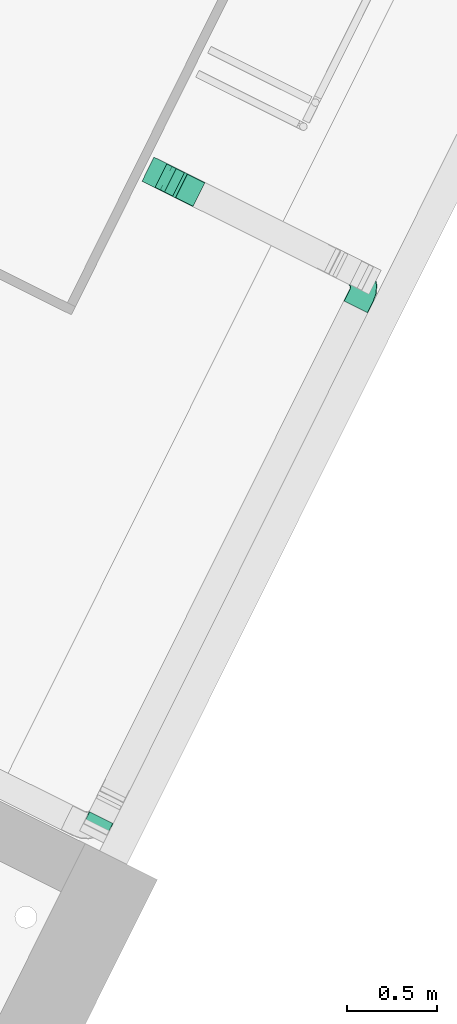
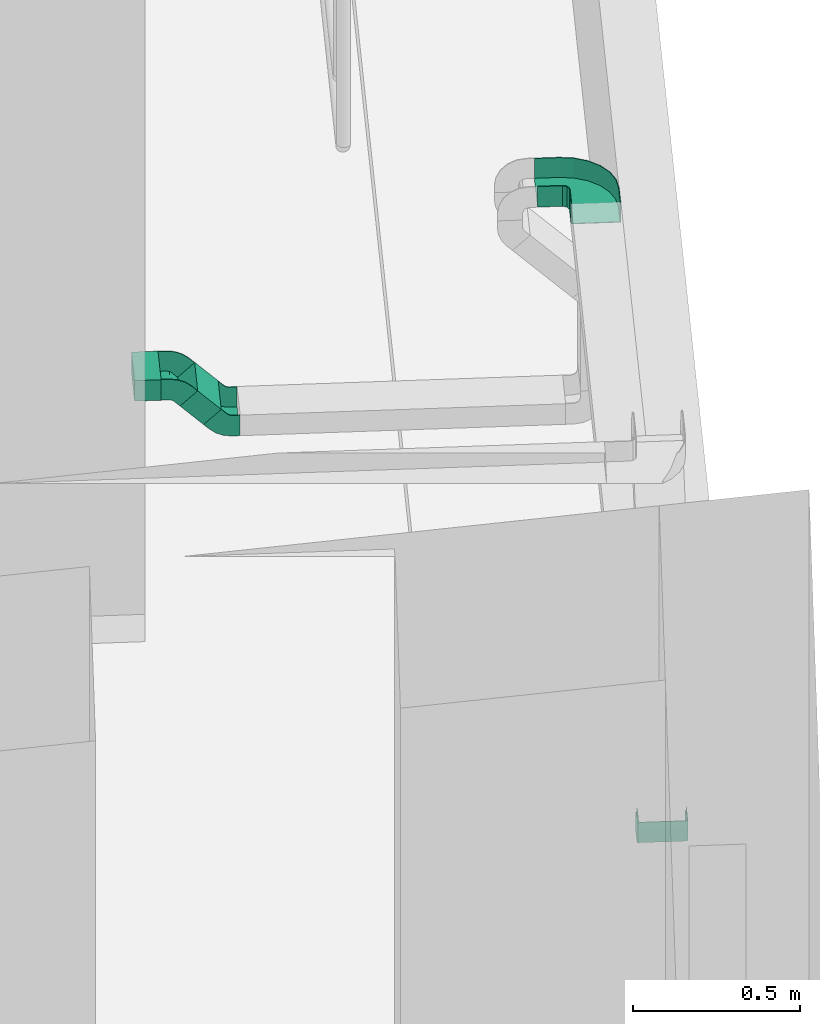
# One storey, part 21 of 34: 4 flow fittings, 2 flow segments.
"""IFC2X3 building model written with IfcOpenShell, lengths in metres."""

from ifc_helpers import new_model, entity, si_unit, converted_unit, derived_unit, direction, frame, frame_2d, origin, place, context, subcontext, project, spatial, rectangle, extrude, faceted_brep, source, transform, mapped, type_object, type_shapes, element, save


model = new_model("IFC2X3")

# Units and contexts
model_context = context("Model", 3, precision=1e-05, world=origin(), true_north=direction((0.894925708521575, 0.446215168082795)))
context_of_model = context(None, 3, precision=1e-05, world=origin(), true_north=direction((0.894925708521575, 0.446215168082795)))
body_context = subcontext(model_context, "Body", "Model", "MODEL_VIEW")
ifc_project = project(units=[si_unit("LENGTHUNIT", "METRE"), si_unit("AREAUNIT", "SQUARE_METRE"), si_unit("VOLUMEUNIT", "CUBIC_METRE"), converted_unit("PLANEANGLEUNIT", "DEGREE", entity("IfcRatioMeasure", 0.0174532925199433), si_unit("PLANEANGLEUNIT", "RADIAN"), dimensions=[0, 0, 0, 0, 0, 0, 0]), si_unit("MASSUNIT", "GRAM", prefix="KILO"), si_unit("TIMEUNIT", "SECOND"), si_unit("FREQUENCYUNIT", "HERTZ"), si_unit("THERMODYNAMICTEMPERATUREUNIT", "DEGREE_CELSIUS"), derived_unit("THERMALTRANSMITTANCEUNIT", [(si_unit("MASSUNIT", "GRAM", prefix="KILO"), 1), (si_unit("THERMODYNAMICTEMPERATUREUNIT", "KELVIN"), -1), (si_unit("TIMEUNIT", "SECOND"), -3)]), derived_unit("VOLUMETRICFLOWRATEUNIT", [(si_unit("LENGTHUNIT", "METRE"), 3), (si_unit("TIMEUNIT", "SECOND"), -1)]), si_unit("ELECTRICCURRENTUNIT", "AMPERE"), si_unit("ELECTRICVOLTAGEUNIT", "VOLT"), si_unit("POWERUNIT", "WATT"), si_unit("FORCEUNIT", "NEWTON", prefix="KILO"), si_unit("ILLUMINANCEUNIT", "LUX"), si_unit("LUMINOUSFLUXUNIT", "LUMEN"), si_unit("LUMINOUSINTENSITYUNIT", "CANDELA"), si_unit("PRESSUREUNIT", "PASCAL")], contexts=[model_context, context_of_model])

# Site, building, storey
site_placement = place(None, frame((218.228324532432, 584.720189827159, 0.0), z_axis=(0.0, 0.0, 1.0), x_axis=(0.446215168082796, 0.894925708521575, 0.0)))
site = spatial("IfcSite", under=ifc_project, at=site_placement, Name="Default", CompositionType="ELEMENT")
building_placement = place(site_placement, origin())
building = spatial("IfcBuilding", under=site, at=building_placement, CompositionType="ELEMENT")
storey_placement = place(building_placement, frame((0.0, 0.0, 8.61)))
storey = spatial("IfcBuildingStorey", under=building, at=storey_placement, Name="2 - Piano Secondo", CompositionType="ELEMENT", Elevation=8.61)

# Flow segments
cable_carrier_segment_type = type_object("IfcCableCarrierSegmentType", Name="Passerella con raccordi:Passerella canale", PredefinedType="NOTDEFINED")
flow_segment_1_placement = place(storey_placement, frame((-1.13742741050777, -12.0074350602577, 0.195502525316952)))
element("IfcFlowSegment", 1, at=flow_segment_1_placement, inside=storey, type_object=cable_carrier_segment_type, Name="Passerella con raccordi:Passerella canale", ObjectType="Passerella con raccordi:Passerella canale", context=body_context, shape_type="SweptSolid", body=[
    extrude(rectangle(XDim=0.100000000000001, YDim=0.0750000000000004, at=frame_2d((-3.78169717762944e-16, -3.81639164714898e-16), x_axis=(1.0, 0.0))), frame((0.0, 0.061871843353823, 0.061871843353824), z_axis=(1.0, 0.0, 0.0), x_axis=(0.0, 0.707106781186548, 0.707106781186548)), (0.0, 0.0, 1.0), 0.15),
])
flow_segment_2_placement = place(storey_placement, frame((-1.13742741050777, -11.8268715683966, 0.289748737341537)))
element("IfcFlowSegment", 2, at=flow_segment_2_placement, inside=storey, type_object=cable_carrier_segment_type, Name="Passerella con raccordi:Passerella canale", ObjectType="Passerella con raccordi:Passerella canale", context=body_context, shape_type="SweptSolid", body=[
    extrude(rectangle(XDim=0.0799999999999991, YDim=0.15, at=frame_2d((-1.08246744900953e-15, -1.31838984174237e-16), x_axis=(1.0, 0.0))), frame((0.0750000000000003, 0.0399999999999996, 0.0), z_axis=(0.0, 0.0, 1.0), x_axis=(0.0, 1.0, 0.0)), (0.0, 0.0, 1.0), 0.0750000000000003),
])

# Flow fittings
cable_carrier_fitting_type_1 = type_object("IfcCableCarrierFittingType", Name="Standard", PredefinedType="NOTDEFINED")
shared_shape_1 = source(origin(), body_context, "Body", "Brep", [
    faceted_brep([(-0.0488172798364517, -0.0374999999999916, -0.0750000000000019), (-0.0488172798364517, -0.0374999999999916, 0.0749999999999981), (-0.0488172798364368, 0.0375000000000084, 0.0749999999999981), (-0.0488172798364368, 0.0375000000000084, 0.0724600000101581), (-0.0488172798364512, -0.0349600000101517, 0.0724600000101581), (-0.0488172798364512, -0.0349600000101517, -0.0724600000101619), (-0.0488172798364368, 0.0375000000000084, -0.0724600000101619), (-0.0488172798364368, 0.0375000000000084, -0.0750000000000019), (0.0610355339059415, -0.00800252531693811, -0.0750000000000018), (0.0610355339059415, -0.00800252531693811, -0.0724600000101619), (0.00979857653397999, -0.0592394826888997, -0.0724600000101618), (0.00979857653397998, -0.0592394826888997, 0.0724600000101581), (0.0610355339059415, -0.00800252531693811, 0.0724600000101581), (0.0610355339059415, -0.00800252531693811, 0.0749999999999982), (0.00800252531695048, -0.0610355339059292, 0.0749999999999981), (0.00800252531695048, -0.0610355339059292, -0.0750000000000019), (-0.0238172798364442, -0.0374999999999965, 0.0749999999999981), (-0.0199904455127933, -0.0382612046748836, 0.0749999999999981), (-0.0161636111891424, -0.0390224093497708, 0.0749999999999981), (-0.0141517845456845, -0.0403666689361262, 0.0749999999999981), (-0.0096751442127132, -0.0433578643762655, 0.0749999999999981), (0.0433578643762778, 0.00967514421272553, 0.0749999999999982), (0.0335202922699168, 0.0172237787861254, 0.0749999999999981), (0.0236827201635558, 0.0247724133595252, 0.0749999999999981), (0.0122266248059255, 0.0295176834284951, 0.0749999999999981), (0.000770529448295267, 0.034262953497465, 0.0749999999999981), (-0.0133030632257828, 0.036115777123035, 0.0749999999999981), (-0.0238172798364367, 0.0375000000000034, 0.0749999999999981), (-0.0238172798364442, -0.0374999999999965, -0.0750000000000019), (-0.0238172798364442, -0.0374999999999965, -0.0030768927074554), (-0.0238172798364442, 0.0375000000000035, -0.0750000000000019), (-0.0133030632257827, 0.036115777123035, -0.0750000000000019), (0.000770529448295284, 0.034262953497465, -0.0750000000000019), (0.0122266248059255, 0.0295176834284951, -0.0750000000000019), (0.0236827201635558, 0.0247724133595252, -0.0750000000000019), (0.0335202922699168, 0.0172237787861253, -0.0750000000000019), (0.0433578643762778, 0.00967514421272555, -0.0750000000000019), (-0.00967514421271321, -0.0433578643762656, -0.0750000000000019), (-0.0129193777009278, -0.0411901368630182, -0.0750000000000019), (-0.0161636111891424, -0.0390224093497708, -0.0750000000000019), (-0.0185367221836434, -0.0385503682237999, -0.0750000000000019), (-0.0238172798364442, 0.0375000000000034, -0.0724600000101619), (-0.0238172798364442, 0.0375000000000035, 0.0724600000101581), (-0.0238172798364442, -0.0349600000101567, -0.0724600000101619), (-0.0182114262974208, -0.0360750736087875, -0.0724600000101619), (-0.0151915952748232, -0.0366757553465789, -0.0724600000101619), (-0.0115353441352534, -0.0391187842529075, -0.0724600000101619), (-0.00787909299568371, -0.041561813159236, -0.0724600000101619), (0.0433578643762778, 0.00967514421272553, -0.0724600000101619), (0.0349443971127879, 0.0161310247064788, -0.0724600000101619), (0.0236827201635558, 0.0247724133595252, -0.0724600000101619), (0.0122266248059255, 0.0295176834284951, -0.0724600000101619), (0.000770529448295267, 0.034262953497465, -0.0724600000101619), (-0.0115233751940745, 0.0358814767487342, -0.0724600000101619), (-0.0238172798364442, -0.0349600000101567, 0.0724600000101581), (-0.0238172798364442, -0.0349600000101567, -0.0104266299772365), (-0.0115233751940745, 0.0358814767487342, 0.0724600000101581), (0.000770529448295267, 0.034262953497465, 0.0724600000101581), (0.0122266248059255, 0.0295176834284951, 0.0724600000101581), (0.0236827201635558, 0.0247724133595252, 0.0724600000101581), (0.0335202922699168, 0.0172237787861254, 0.0724600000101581), (0.0433578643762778, 0.00967514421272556, 0.0724600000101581), (-0.00787909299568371, -0.0415618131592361, 0.0724600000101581), (-0.012631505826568, -0.0383863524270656, 0.0724600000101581), (-0.0151915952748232, -0.0366757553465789, 0.0724600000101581), (-0.0195044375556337, -0.0358178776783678, 0.0724600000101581), (-0.0173020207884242, -0.0385909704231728, 0.0), (-0.00967514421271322, -0.0433578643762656, 0.00307688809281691), (-0.0132021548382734, -0.0405495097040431, -0.00928633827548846), (-0.0166423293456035, -0.0361324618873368, 0.0), (-0.00787909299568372, -0.041561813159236, 0.0104266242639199), (-0.0120504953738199, -0.0382751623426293, -0.000444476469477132)], [[[0, 1, 2, 3, 4, 5, 6, 7]], [[8, 9, 10, 11, 12, 13, 14, 15]], [[1, 16, 17, 18, 19, 20, 14, 13, 21, 22, 23, 24, 25, 26, 27, 2]], [[16, 1, 0, 28, 29]], [[7, 30, 31, 32, 33, 34, 35, 36, 8, 15, 37, 38, 39, 40, 28, 0]], [[41, 30, 7, 6]], [[27, 42, 3, 2]], [[5, 43, 44, 45, 46, 47, 10, 9, 48, 49, 50, 51, 52, 53, 41, 6]], [[43, 5, 4, 54, 55]], [[3, 42, 56, 57, 58, 59, 60, 61, 12, 11, 62, 63, 64, 65, 54, 4]], [[66, 17, 29]], [[37, 67, 68]], [[39, 66, 40]], [[29, 28, 40]], [[16, 29, 17]], [[66, 18, 17]], [[18, 66, 19]], [[37, 68, 39, 38]], [[40, 66, 29]], [[19, 66, 68]], [[67, 20, 19]], [[19, 68, 67]], [[39, 68, 66]], [[52, 32, 31, 30, 41, 53]], [[57, 56, 42, 27, 26, 25]], [[51, 50, 34, 33, 32, 52]], [[59, 58, 57, 25, 24, 23]], [[36, 35, 34, 50, 49, 48]], [[61, 60, 59, 23, 22, 21]], [[69, 55, 65]], [[70, 47, 46]], [[63, 62, 70]], [[71, 46, 45]], [[69, 44, 55]], [[70, 71, 63]], [[71, 69, 64]], [[65, 64, 69]], [[44, 69, 45]], [[65, 55, 54]], [[44, 43, 55]], [[63, 71, 64]], [[69, 71, 45]], [[46, 71, 70]], [[14, 20, 67, 37, 15]], [[8, 36, 48, 9]], [[12, 61, 21, 13]], [[10, 47, 70, 62, 11]]]),
])
type_shapes(cable_carrier_fitting_type_1, [shared_shape_1])
flow_fitting_1_placement = place(storey_placement, frame((-1.06242741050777, -11.8756888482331, 0.327248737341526), z_axis=(1.0, 0.0, 0.0), x_axis=(0.0, 0.707106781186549, 0.707106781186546)))
element("IfcFlowFitting", 3, at=flow_fitting_1_placement, inside=storey, type_object=cable_carrier_fitting_type_1, Name="M_Curvatura esterna verticale canale:Standard", ObjectType="Standard", context=body_context, shape_type="MappedRepresentation", body=[
    mapped(shared_shape_1, transform((0.0, 0.0, 0.0), scale=1.0)),
])
cable_carrier_fitting_type_2 = type_object("IfcCableCarrierFittingType", Name="Standard", PredefinedType="NOTDEFINED")
shared_shape_2 = source(origin(), body_context, "Body", "Brep", [
    faceted_brep([(-0.0488172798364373, -0.0349600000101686, -0.0724600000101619), (-0.0488172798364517, 0.0374999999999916, -0.0724600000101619), (-0.0488172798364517, 0.0374999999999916, -0.0750000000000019), (-0.0488172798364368, -0.0375000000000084, -0.0750000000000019), (-0.0488172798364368, -0.0375000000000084, 0.0749999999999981), (-0.0488172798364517, 0.0374999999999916, 0.0749999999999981), (-0.0488172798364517, 0.0374999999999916, 0.0724600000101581), (-0.0488172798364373, -0.0349600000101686, 0.0724600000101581), (0.00800252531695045, 0.0610355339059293, -0.0750000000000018), (0.00800252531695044, 0.0610355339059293, -0.0724600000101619), (0.059239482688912, 0.00979857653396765, -0.0724600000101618), (0.059239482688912, 0.00979857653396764, 0.0724600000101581), (0.00800252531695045, 0.0610355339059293, 0.0724600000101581), (0.00800252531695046, 0.0610355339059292, 0.0749999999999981), (0.0610355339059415, 0.00800252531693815, 0.0749999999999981), (0.0610355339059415, 0.00800252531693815, -0.0750000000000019), (-0.0238172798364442, -0.0375000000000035, 0.0749999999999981), (0.000770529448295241, -0.034262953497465, 0.0749999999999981), (0.0236827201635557, -0.0247724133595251, 0.0749999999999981), (0.0433578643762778, -0.00967514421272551, 0.0749999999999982), (-0.00967514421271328, 0.0433578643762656, 0.0749999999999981), (-0.0129193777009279, 0.0411901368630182, 0.0749999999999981), (-0.0161636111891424, 0.0390224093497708, 0.0749999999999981), (-0.0199904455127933, 0.0382612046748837, 0.0749999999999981), (-0.0238172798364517, 0.0374999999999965, 0.0749999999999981), (-0.0238172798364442, -0.0375000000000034, -0.0750000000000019), (-0.0238172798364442, 0.0374999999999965, -0.0750000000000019), (-0.0190619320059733, 0.0384458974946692, -0.0750000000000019), (-0.0161636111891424, 0.0390224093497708, -0.0750000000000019), (-0.0129193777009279, 0.0411901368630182, -0.0750000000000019), (-0.00967514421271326, 0.0433578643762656, -0.0750000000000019), (0.0433578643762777, -0.00967514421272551, -0.0750000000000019), (0.0236827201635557, -0.0247724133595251, -0.0750000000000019), (0.000770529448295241, -0.034262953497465, -0.0750000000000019), (-0.0238172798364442, 0.0374999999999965, -0.0724600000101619), (-0.0238172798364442, 0.0374999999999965, 0.0724600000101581), (-0.0238172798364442, -0.0349600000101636, -0.0724600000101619), (0.000113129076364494, -0.0318095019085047, -0.0724600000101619), (0.0224127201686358, -0.0225727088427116, -0.0724600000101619), (0.0415618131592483, -0.007879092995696, -0.0724600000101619), (-0.00967514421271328, 0.0433578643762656, -0.0724600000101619), (-0.0129193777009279, 0.0411901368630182, -0.0724600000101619), (-0.0161636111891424, 0.0390224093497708, -0.0724600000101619), (-0.0199904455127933, 0.0382612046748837, -0.0724600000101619), (-0.0238172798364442, -0.0349600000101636, 0.0724600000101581), (-0.0199904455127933, 0.0382612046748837, 0.0724600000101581), (-0.0161636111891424, 0.0390224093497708, 0.0724600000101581), (-0.0137065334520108, 0.0406641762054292, 0.0724600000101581), (-0.00967514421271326, 0.0433578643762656, 0.0724600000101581), (0.0415618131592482, -0.007879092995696, 0.0724600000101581), (0.0224127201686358, -0.0225727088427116, 0.0724600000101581), (0.000113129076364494, -0.0318095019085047, 0.0724600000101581)], [[[0, 1, 2, 3, 4, 5, 6, 7]], [[8, 9, 10, 11, 12, 13, 14, 15]], [[4, 16, 17, 18, 19, 14, 13, 20, 21, 22, 23, 24, 5]], [[4, 3, 25, 16]], [[2, 26, 27, 28, 29, 30, 8, 15, 31, 32, 33, 25, 3]], [[2, 1, 34, 26]], [[6, 5, 24, 35]], [[0, 36, 37, 38, 39, 10, 9, 40, 41, 42, 43, 34, 1]], [[0, 7, 44, 36]], [[6, 35, 45, 46, 47, 48, 12, 11, 49, 50, 51, 44, 7]], [[25, 33, 17, 16]], [[33, 32, 18, 17]], [[32, 31, 19, 18]], [[28, 27, 26, 34, 43, 42]], [[24, 23, 22, 46, 45, 35]], [[29, 28, 42, 41, 40, 30]], [[21, 20, 48, 47, 46, 22]], [[44, 51, 37, 36]], [[51, 50, 38, 37]], [[50, 49, 39, 38]], [[19, 31, 15, 14]], [[30, 40, 9, 8]], [[48, 20, 13, 12]], [[39, 49, 11, 10]]]),
])
type_shapes(cable_carrier_fitting_type_2, [shared_shape_2])
flow_fitting_2_placement = place(storey_placement, frame((-1.06242741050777, -12.0154375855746, 0.187500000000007), z_axis=(1.0, 0.0, 0.0), x_axis=(0.0, 1.0, 0.0)))
element("IfcFlowFitting", 4, at=flow_fitting_2_placement, inside=storey, type_object=cable_carrier_fitting_type_2, Name="M_Curvatura interna verticale canale:Standard", ObjectType="Standard", context=body_context, shape_type="MappedRepresentation", body=[
    mapped(shared_shape_2, transform((0.0, 0.0, 0.0), scale=1.0)),
])
cable_carrier_fitting_type_3 = type_object("IfcCableCarrierFittingType", Name="Standard", PredefinedType="NOTDEFINED")
shared_shape_3 = source(origin(), body_context, "Body", "Brep", [
    faceted_brep([(-0.169999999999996, -0.0749999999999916, -0.0375000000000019), (-0.169999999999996, -0.0749999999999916, 0.0374999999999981), (-0.169999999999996, -0.0724600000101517, 0.0374999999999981), (-0.169999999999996, -0.0724600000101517, -0.0349600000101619), (-0.169999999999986, 0.0724600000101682, -0.0349600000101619), (-0.169999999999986, 0.0724600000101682, 0.0374999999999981), (-0.169999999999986, 0.0750000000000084, 0.0374999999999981), (-0.169999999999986, 0.0750000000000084, -0.0375000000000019), (0.0724600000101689, -0.169999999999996, -0.0349600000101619), (-0.0724600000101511, -0.169999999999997, -0.0349600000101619), (-0.0724600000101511, -0.169999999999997, 0.0374999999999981), (-0.0749999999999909, -0.169999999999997, 0.0374999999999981), (-0.0749999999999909, -0.169999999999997, -0.0375000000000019), (0.075000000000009, -0.169999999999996, -0.0375000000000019), (0.075000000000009, -0.169999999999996, 0.0374999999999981), (0.0724600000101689, -0.169999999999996, 0.0374999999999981), (-0.09499999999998, 0.0750000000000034, 0.0374999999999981), (-0.0949999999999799, 0.0750000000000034, -0.0375000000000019), (-0.0949999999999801, 0.0724600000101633, 0.0374999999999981), (-0.0516581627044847, 0.0667539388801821, 0.0374999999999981), (-0.011269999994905, 0.0500246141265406, 0.0374999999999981), (0.023412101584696, 0.023412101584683, 0.0374999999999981), (0.0500246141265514, -0.0112699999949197, 0.0374999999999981), (0.0667539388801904, -0.0516581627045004, 0.0374999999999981), (0.0724600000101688, -0.0949999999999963, 0.0374999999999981), (0.0750000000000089, -0.0949999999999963, 0.0374999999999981), (0.069207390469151, -0.0510007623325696, 0.0374999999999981), (0.0522243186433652, -0.0099999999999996, 0.0374999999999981), (0.0252081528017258, 0.0252081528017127, 0.0374999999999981), (-0.00999999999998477, 0.0522243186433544, 0.0374999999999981), (-0.0510007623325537, 0.0692073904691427, 0.0374999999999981), (-0.0949999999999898, -0.0749999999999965, 0.0374999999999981), (-0.0917283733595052, -0.0763551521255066, 0.0374999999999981), (-0.0884567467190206, -0.0777103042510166, 0.0374999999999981), (-0.0846573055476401, -0.0792840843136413, 0.0374999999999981), (-0.0808578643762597, -0.080857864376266, 0.0374999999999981), (-0.0793933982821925, -0.0843933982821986, 0.0374999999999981), (-0.0779289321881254, -0.0879289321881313, 0.0374999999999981), (-0.0763551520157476, -0.0917283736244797, 0.0374999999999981), (-0.0749999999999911, -0.0949999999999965, 0.0374999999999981), (-0.0724600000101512, -0.0949999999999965, 0.0374999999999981), (-0.0736114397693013, -0.0907027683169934, 0.0374999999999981), (-0.0754797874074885, -0.083730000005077, 0.0374999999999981), (-0.0796048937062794, -0.0796048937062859, 0.0374999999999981), (-0.0837300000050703, -0.0754797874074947, 0.0374999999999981), (-0.08936500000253, -0.0739698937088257, 0.0374999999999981), (-0.0949999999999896, -0.0724600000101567, 0.0374999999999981), (-0.0949999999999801, 0.0724600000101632, -0.0349600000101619), (-0.0949999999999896, -0.0724600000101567, -0.0349600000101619), (-0.0907027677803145, -0.0736114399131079, -0.0349600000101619), (-0.0837300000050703, -0.0754797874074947, -0.0349600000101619), (-0.0796048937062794, -0.0796048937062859, -0.0349600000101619), (-0.0754797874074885, -0.083730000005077, -0.0349600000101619), (-0.0739698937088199, -0.0893650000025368, -0.0349600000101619), (-0.0724600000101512, -0.0949999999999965, -0.0349600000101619), (0.0724600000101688, -0.0949999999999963, -0.0349600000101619), (0.0667539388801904, -0.0516581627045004, -0.0349600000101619), (0.0500246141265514, -0.0112699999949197, -0.0349600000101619), (0.023412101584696, 0.023412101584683, -0.0349600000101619), (-0.011269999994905, 0.0500246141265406, -0.0349600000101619), (-0.0516581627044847, 0.0667539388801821, -0.0349600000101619), (-0.0949999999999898, -0.0749999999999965, -0.0375000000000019), (0.0750000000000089, -0.0949999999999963, -0.0375000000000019), (-0.0749999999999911, -0.0949999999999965, -0.0375000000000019), (-0.0764644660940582, -0.0914644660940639, -0.0375000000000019), (-0.0779289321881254, -0.0879289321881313, -0.0375000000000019), (-0.0793933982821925, -0.0843933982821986, -0.0375000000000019), (-0.0808578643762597, -0.080857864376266, -0.0375000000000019), (-0.0843933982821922, -0.0793933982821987, -0.0375000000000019), (-0.0879289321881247, -0.0779289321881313, -0.0375000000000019), (-0.0914644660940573, -0.0764644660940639, -0.0375000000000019), (-0.0510007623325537, 0.0692073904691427, -0.0375000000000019), (-0.00999999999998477, 0.0522243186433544, -0.0375000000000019), (0.0252081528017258, 0.0252081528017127, -0.0375000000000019), (0.0522243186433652, -0.0099999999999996, -0.0375000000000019), (0.069207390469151, -0.0510007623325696, -0.0375000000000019)], [[[0, 1, 2, 3, 4, 5, 6, 7]], [[8, 9, 10, 11, 12, 13, 14, 15]], [[16, 17, 7, 6]], [[16, 6, 5, 18, 19, 20, 21, 22, 23, 24, 15, 14, 25, 26, 27, 28, 29, 30]], [[1, 31, 32, 33, 34, 35, 36, 37, 38, 39, 11, 10, 40, 41, 42, 43, 44, 45, 46, 2]], [[47, 18, 5, 4]], [[47, 4, 3, 48, 49, 50, 51, 52, 53, 54, 9, 8, 55, 56, 57, 58, 59, 60]], [[48, 3, 2, 46]], [[31, 1, 0, 61]], [[62, 13, 12, 63, 64, 65, 66, 67, 68, 69, 70, 61, 0, 7, 17, 71, 72, 73, 74, 75]], [[71, 17, 16, 30]], [[72, 71, 30, 29]], [[72, 29, 28, 73]], [[75, 74, 27, 26]], [[62, 75, 26, 25]], [[28, 27, 74, 73]], [[19, 18, 47, 60]], [[20, 19, 60, 59]], [[21, 20, 59, 58]], [[22, 57, 56, 23]], [[23, 56, 55, 24]], [[58, 57, 22, 21]], [[44, 50, 49, 48, 46, 45]], [[43, 42, 52, 51, 50, 44]], [[41, 40, 54, 53, 52, 42]], [[33, 32, 31, 61, 70, 69, 68, 67, 35, 34]], [[35, 67, 66, 65, 64, 63, 39, 38, 37, 36]], [[13, 62, 25, 14]], [[15, 24, 55, 8]], [[9, 54, 40, 10]], [[11, 39, 63, 12]]]),
])
type_shapes(cable_carrier_fitting_type_3, [shared_shape_3])
flow_fitting_3_placement = place(storey_placement, frame((-1.06242741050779, -13.1260789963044, 0.985), z_axis=(0.0, 0.0, 1.0), x_axis=(0.0, -1.0, 0.0)))
element("IfcFlowFitting", 5, at=flow_fitting_3_placement, inside=storey, type_object=cable_carrier_fitting_type_3, Name="M_Curvatura orizzontale canale:Standard", ObjectType="Standard", context=body_context, shape_type="MappedRepresentation", body=[
    mapped(shared_shape_3, transform((0.0, 0.0, 0.0), scale=1.0)),
])
cable_carrier_fitting_type_4 = type_object("IfcCableCarrierFittingType", Name="Standard", PredefinedType="NOTDEFINED")
shared_shape_4 = source(origin(), body_context, "Body", "Brep", [
    faceted_brep([(-0.0824999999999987, -0.0374999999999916, -0.0750000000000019), (-0.0824999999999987, -0.0374999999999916, -0.0724600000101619), (-0.0824999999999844, 0.0349600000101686, -0.0724600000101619), (-0.0824999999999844, 0.0349600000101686, 0.0724600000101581), (-0.0824999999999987, -0.0374999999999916, 0.0724600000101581), (-0.0824999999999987, -0.0374999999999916, 0.0749999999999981), (-0.0824999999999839, 0.0375000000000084, 0.0749999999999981), (-0.0824999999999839, 0.0375000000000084, -0.0750000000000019), (0.034960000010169, -0.0824999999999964, -0.0724600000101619), (-0.0374999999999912, -0.0824999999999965, -0.0724600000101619), (-0.0374999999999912, -0.0824999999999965, -0.0750000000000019), (0.0375000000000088, -0.0824999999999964, -0.0750000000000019), (0.0375000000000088, -0.0824999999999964, 0.0749999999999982), (-0.0374999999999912, -0.0824999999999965, 0.0749999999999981), (-0.0374999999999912, -0.0824999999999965, 0.0724600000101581), (0.034960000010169, -0.0824999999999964, 0.0724600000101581), (-0.05749999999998, 0.0375000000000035, 0.0749999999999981), (-0.0574999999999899, -0.0374999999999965, 0.0749999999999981), (-0.0531066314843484, -0.0393197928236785, 0.0749999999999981), (-0.0504289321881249, -0.0404289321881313, 0.0749999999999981), (-0.0468933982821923, -0.0418933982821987, 0.0749999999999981), (-0.0433578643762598, -0.043357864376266, 0.0749999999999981), (-0.0418933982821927, -0.0468933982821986, 0.0749999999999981), (-0.0404289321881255, -0.0504289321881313, 0.0749999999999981), (-0.0389644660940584, -0.0539644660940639, 0.0749999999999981), (-0.0374999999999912, -0.0574999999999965, 0.0749999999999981), (0.0375000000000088, -0.0574999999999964, 0.0749999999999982), (0.0328503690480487, -0.0281433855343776, 0.0749999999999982), (0.0193566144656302, -0.00166040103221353, 0.0749999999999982), (-0.0016604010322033, 0.0193566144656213, 0.0749999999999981), (-0.0281433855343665, 0.0328503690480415, 0.0749999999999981), (-0.05749999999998, 0.0375000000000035, -0.0750000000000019), (-0.0281433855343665, 0.0328503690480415, -0.0750000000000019), (-0.0016604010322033, 0.0193566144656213, -0.0750000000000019), (0.0193566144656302, -0.00166040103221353, -0.0750000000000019), (0.0328503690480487, -0.0281433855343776, -0.0750000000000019), (0.0375000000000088, -0.0574999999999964, -0.0750000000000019), (-0.0374999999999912, -0.0574999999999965, -0.0750000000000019), (-0.0389644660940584, -0.0539644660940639, -0.0750000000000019), (-0.0404289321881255, -0.0504289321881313, -0.0750000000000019), (-0.0418933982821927, -0.0468933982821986, -0.0750000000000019), (-0.0433578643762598, -0.043357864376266, -0.0750000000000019), (-0.0487132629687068, -0.0411395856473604, -0.0750000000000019), (-0.0531066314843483, -0.0393197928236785, -0.0750000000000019), (-0.0574999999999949, -0.0374999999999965, -0.0750000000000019), (-0.0574999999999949, -0.0374999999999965, -0.0724600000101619), (-0.0574999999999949, -0.0374999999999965, 0.0724600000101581), (-0.0574999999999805, 0.0349600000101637, -0.0724600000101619), (-0.0531066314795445, -0.0393197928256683, -0.0724600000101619), (-0.0504289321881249, -0.0404289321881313, -0.0724600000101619), (-0.0468933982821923, -0.0418933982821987, -0.0724600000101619), (-0.0433578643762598, -0.043357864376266, -0.0724600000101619), (-0.0418933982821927, -0.0468933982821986, -0.0724600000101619), (-0.0404289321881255, -0.0504289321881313, -0.0724600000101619), (-0.0389644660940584, -0.0539644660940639, -0.0724600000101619), (-0.0374999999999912, -0.0574999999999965, -0.0724600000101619), (0.034960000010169, -0.0574999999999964, -0.0724600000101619), (0.0304346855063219, -0.0289282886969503, -0.0724600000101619), (0.0173017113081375, -0.00315337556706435, -0.0724600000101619), (-0.00315337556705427, 0.0173017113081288, -0.0724600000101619), (-0.0289282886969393, 0.0304346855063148, -0.0724600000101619), (-0.0574999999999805, 0.0349600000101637, 0.0724600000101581), (-0.0289282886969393, 0.0304346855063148, 0.0724600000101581), (-0.00315337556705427, 0.0173017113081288, 0.0724600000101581), (0.0173017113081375, -0.00315337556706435, 0.0724600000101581), (0.0304346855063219, -0.0289282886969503, 0.0724600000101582), (0.034960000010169, -0.0574999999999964, 0.0724600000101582), (-0.0374999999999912, -0.0574999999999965, 0.0724600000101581), (-0.0393197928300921, -0.0531066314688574, 0.0724600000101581), (-0.041139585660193, -0.0487132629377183, 0.0724600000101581), (-0.0433578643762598, -0.043357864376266, 0.0724600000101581), (-0.0468933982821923, -0.0418933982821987, 0.0724600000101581), (-0.0504289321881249, -0.0404289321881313, 0.0724600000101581), (-0.0539644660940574, -0.0389644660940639, 0.0724600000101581)], [[[0, 1, 2, 3, 4, 5, 6, 7]], [[8, 9, 10, 11, 12, 13, 14, 15]], [[16, 6, 5, 17, 18, 19, 20, 21, 22, 23, 24, 25, 13, 12, 26, 27, 28, 29, 30]], [[16, 31, 7, 6]], [[7, 31, 32, 33, 34, 35, 36, 11, 10, 37, 38, 39, 40, 41, 42, 43, 44, 0]], [[45, 1, 0, 44]], [[17, 5, 4, 46]], [[47, 2, 1, 45, 48, 49, 50, 51, 52, 53, 54, 55, 9, 8, 56, 57, 58, 59, 60]], [[47, 61, 3, 2]], [[3, 61, 62, 63, 64, 65, 66, 15, 14, 67, 68, 69, 70, 71, 72, 73, 46, 4]], [[29, 33, 32, 30]], [[16, 30, 32, 31]], [[29, 28, 34, 33]], [[35, 34, 28, 27]], [[36, 35, 27, 26]], [[43, 42, 41, 51, 50, 49, 48, 45, 44]], [[20, 19, 18, 17, 46, 73, 72, 71, 70, 21]], [[53, 52, 51, 41, 40, 39, 38, 37, 55, 54]], [[67, 25, 24, 23, 22, 21, 70, 69, 68]], [[60, 59, 63, 62]], [[47, 60, 62, 61]], [[59, 58, 64, 63]], [[64, 58, 57, 65]], [[65, 57, 56, 66]], [[11, 36, 26, 12]], [[9, 55, 37, 10]], [[13, 25, 67, 14]], [[15, 66, 56, 8]]]),
])
type_shapes(cable_carrier_fitting_type_4, [shared_shape_4])
flow_fitting_4_placement = place(storey_placement, frame((-4.49687167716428, -13.1260789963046, 0.985000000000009), z_axis=(0.0, -1.0, 0.0), x_axis=(-1.0, 0.0, 0.0)))
element("IfcFlowFitting", 6, at=flow_fitting_4_placement, inside=storey, type_object=cable_carrier_fitting_type_4, Name="M_Curvatura interna verticale canale:Standard", ObjectType="Standard", context=body_context, shape_type="MappedRepresentation", body=[
    mapped(shared_shape_4, transform((0.0, 0.0, 0.0), scale=1.0)),
])

save(model, "model.ifc")
